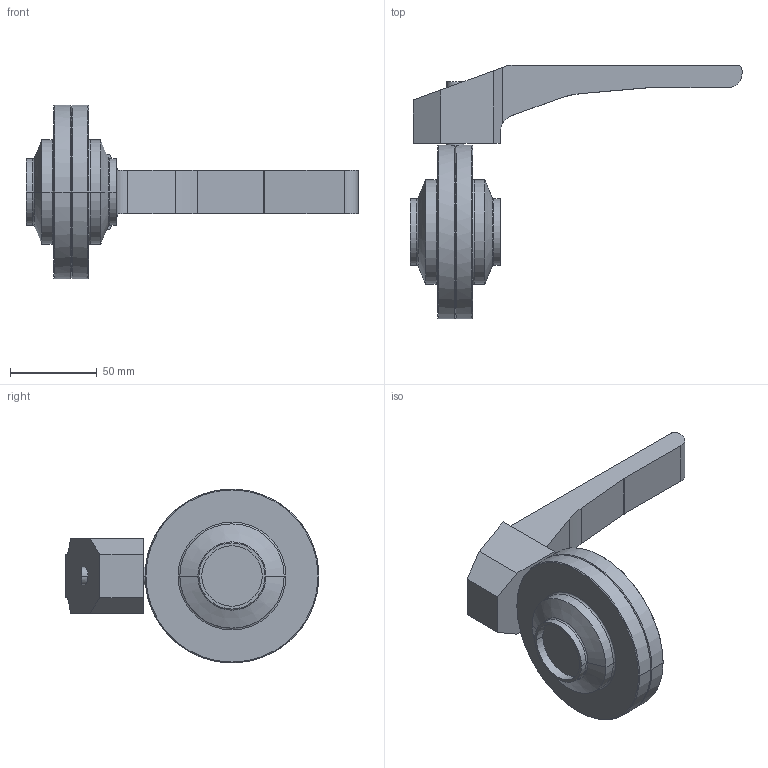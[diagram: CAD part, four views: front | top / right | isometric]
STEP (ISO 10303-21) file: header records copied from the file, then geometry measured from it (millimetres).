
FILE_DESCRIPTION(('OneSpaceDesigner STEP Export'),'2;1');
FILE_NAME('SV1-1.5zoll-H-12S.stp','2007-04-20T11:48:51',(''),(''),'OneSpace Designer STEP processor for AP214 (Solid Model)','OneSpace Modeling 15.00 06-Feb-2007 (C) CoCreate Software GmbH','');
FILE_SCHEMA(('AUTOMOTIVE_DESIGN { 1 0 10303 214 1 1 1 1 }'));
Length unit declared in the file: millimetre
Products named in the file (3): Handhebel-SV-40-100; Gehäusehälfte-SV1-1.5zoll-1S; SV1-1.5zoll-H-12S-vereint
Assembly tree (2 placements, depth 2):
  SV1-1.5zoll-H-12S-vereint
    Gehäusehälfte-SV1-1.5zoll-1S
    Handhebel-SV-40-100
Bounding box: 191 x 146 x 100 mm (x, y, z)
Volume: 341873.7 mm3; surface area: 47964.8 mm2
Topology: 2 solids, 2 shells, 70 faces, 157 edges, 96 vertices
Faces by surface type: cylinder 25, plane 25, cone 12, torus 8
Entity records: 2220 total; most frequent: CARTESIAN_POINT 718, ORIENTED_EDGE 314, DIRECTION 275, EDGE_CURVE 157, AXIS2_PLACEMENT_3D 99, VERTEX_POINT 96, VECTOR 77, LINE 77
